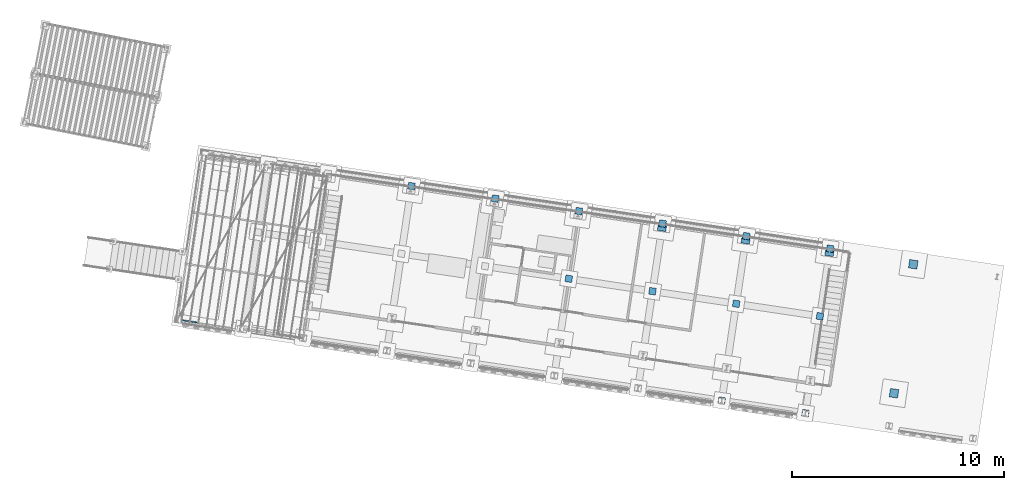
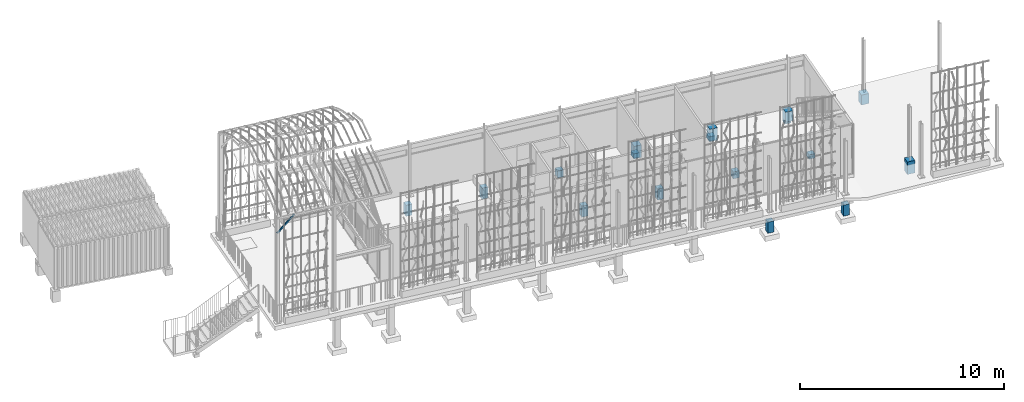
# One storey, part 7 of 142: 17 columns, 1 member, 2 elements without a shape of their own.
"""IFC4 building model written with IfcOpenShell, lengths in metres."""

from ifc_helpers import new_model, si_unit, direction, frame, origin_with_axes, place, context, subcontext, project, spatial, polyline, hollow_rectangle, outline, extrude, material, material_profile, profile_set, profile_usage, type_object, element, aggregate, save


model = new_model("IFC4")

# Units and contexts
model_context = context("Model", 3, precision=1e-05, world=origin_with_axes(), true_north=direction((0.0, 1.0)))
body_context = subcontext(model_context, "Body", "Model", "MODEL_VIEW")
ifc_project = project(units=[si_unit("LENGTHUNIT", "METRE"), si_unit("AREAUNIT", "SQUARE_METRE"), si_unit("VOLUMEUNIT", "CUBIC_METRE")], contexts=[model_context])

# Site, building, storey
site_placement = place(None, origin_with_axes())
site = spatial("IfcSite", under=ifc_project, at=site_placement, Name="Lares · Rua das Mercês · artigo 4771")
building_placement = place(site_placement, frame((15.0, 9.7, 14.65), z_axis=(0.0, 0.0, 1.0), x_axis=(0.989015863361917, -0.147809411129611, 0.0)))
building = spatial("IfcBuilding", under=site, at=building_placement, Name="Casa Sobreposta")
storey_placement = place(building_placement, origin_with_axes())
storey = spatial("IfcBuildingStorey", under=building, at=storey_placement, Name="00 · Habitação e estacionamento", Elevation=14.65)

# Columns
ifc_material_1 = material(Name="Betão armado / Stahlbeton", Category="concrete")
column_1_placement = place(storey_placement, frame((0.0, 0.0, -0.75), z_axis=(0.0, 0.0, 1.0), x_axis=(1.0, 0.0, 0.0)))
element("IfcColumn", 1, at=column_1_placement, inside=storey, material=ifc_material_1, Name="Pedestal 5B · betão 400 x 400", context=body_context, shape_type="SweptSolid", body=[
    extrude(outline(polyline([(16.2, 6.08), (16.2, 6.48), (15.8, 6.48), (15.8, 6.08), (16.2, 6.08)])), origin_with_axes(), (0.0, 0.0, 1.0), 0.75),
])
column_2_placement = place(storey_placement, frame((0.0, 0.0, -0.75), z_axis=(0.0, 0.0, 1.0), x_axis=(1.0, 0.0, 0.0)))
element("IfcColumn", 2, at=column_2_placement, inside=storey, material=ifc_material_1, Name="Pedestal 6B · betão 400 x 400", context=body_context, shape_type="SweptSolid", body=[
    extrude(outline(polyline([(20.2, 6.08), (20.2, 6.48), (19.8, 6.48), (19.8, 6.08), (20.2, 6.08)])), origin_with_axes(), (0.0, 0.0, 1.0), 0.75),
])
column_3_placement = place(storey_placement, frame((0.0, 0.0, -0.6), z_axis=(0.0, 0.0, 1.0), x_axis=(1.0, 0.0, 0.0)))
element("IfcColumn", 3, at=column_3_placement, inside=storey, material=ifc_material_1, Name="Pedestal 7B · betão 400 x 400", context=body_context, shape_type="SweptSolid", body=[
    extrude(outline(polyline([(24.2, 6.08), (24.2, 6.48), (23.8, 6.48), (23.8, 6.08), (24.2, 6.08)])), origin_with_axes(), (0.0, 0.0, 1.0), 0.6),
])
column_4_placement = place(storey_placement, frame((0.0, 0.0, -0.75), z_axis=(0.0, 0.0, 1.0), x_axis=(1.0, 0.0, 0.0)))
element("IfcColumn", 4, at=column_4_placement, inside=storey, material=ifc_material_1, Name="Pedestal 8A · betão 400 x 400", context=body_context, shape_type="SweptSolid", body=[
    extrude(outline(polyline([(28.2, -0.08), (28.2, 0.32), (27.8, 0.32), (27.8, -0.08), (28.2, -0.08)])), origin_with_axes(), (0.0, 0.0, 1.0), 0.75),
])
column_5_placement = place(storey_placement, frame((0.0, 0.0, -0.6), z_axis=(0.0, 0.0, 1.0), x_axis=(1.0, 0.0, 0.0)))
element("IfcColumn", 5, at=column_5_placement, inside=storey, material=ifc_material_1, Name="Pedestal 8B · betão 400 x 400", context=body_context, shape_type="SweptSolid", body=[
    extrude(outline(polyline([(28.2, 6.08), (28.2, 6.48), (27.8, 6.48), (27.8, 6.08), (28.2, 6.08)])), origin_with_axes(), (0.0, 0.0, 1.0), 0.6),
])

# Assembly, columns
assembly_1_placement = place(storey_placement, origin_with_axes())
assembly_1 = element("IfcElementAssembly", 6, at=assembly_1_placement, inside=storey, Name="Pódio · terraço, casa térrea e cisterna", ObjectType="CISTERN_PODIUM", PredefinedType="USERDEFINED")
column_6_placement = place(assembly_1_placement, frame((0.0, 0.0, -1.25), z_axis=(0.0, 0.0, 1.0), x_axis=(1.0, 0.0, 0.0)))
column_6 = element("IfcColumn", 7, at=column_6_placement, material=ifc_material_1, Name="Pódio suspenso · apoio sobre o terreno", context=body_context, shape_type="SweptSolid", body=[
    extrude(outline(polyline([(4.16, 6.27), (4.16, 6.59), (3.84, 6.59), (3.84, 6.27), (4.16, 6.27)])), origin_with_axes(), (0.0, 0.0, 1.0), 0.66),
])
column_7_placement = place(assembly_1_placement, frame((0.0, 0.0, -1.25), z_axis=(0.0, 0.0, 1.0), x_axis=(1.0, 0.0, 0.0)))
column_7 = element("IfcColumn", 8, at=column_7_placement, material=ifc_material_1, Name="Pódio suspenso · apoio sobre o terreno", context=body_context, shape_type="SweptSolid", body=[
    extrude(outline(polyline([(8.16, 6.27), (8.16, 6.59), (7.84, 6.59), (7.84, 6.27), (8.16, 6.27)])), origin_with_axes(), (0.0, 0.0, 1.0), 0.66),
])
column_8_placement = place(assembly_1_placement, frame((0.0, 0.0, -1.25), z_axis=(0.0, 0.0, 1.0), x_axis=(1.0, 0.0, 0.0)))
column_8 = element("IfcColumn", 9, at=column_8_placement, material=ifc_material_1, Name="Pódio suspenso · apoio sobre o terreno", context=body_context, shape_type="SweptSolid", body=[
    extrude(outline(polyline([(12.16, 3.04), (12.16, 3.36), (11.84, 3.36), (11.84, 3.04), (12.16, 3.04)])), origin_with_axes(), (0.0, 0.0, 1.0), 0.66),
])
column_9_placement = place(assembly_1_placement, frame((0.0, 0.0, -1.0), z_axis=(0.0, 0.0, 1.0), x_axis=(1.0, 0.0, 0.0)))
column_9 = element("IfcColumn", 10, at=column_9_placement, material=ifc_material_1, Name="Pódio suspenso · apoio sobre o terreno", context=body_context, shape_type="SweptSolid", body=[
    extrude(outline(polyline([(12.16, 6.27), (12.16, 6.59), (11.84, 6.59), (11.84, 6.27), (12.16, 6.27)])), origin_with_axes(), (0.0, 0.0, 1.0), 0.41),
])
column_10_placement = place(assembly_1_placement, frame((0.0, 0.0, -1.25), z_axis=(0.0, 0.0, 1.0), x_axis=(1.0, 0.0, 0.0)))
column_10 = element("IfcColumn", 11, at=column_10_placement, material=ifc_material_1, Name="Pódio suspenso · apoio sobre o terreno", context=body_context, shape_type="SweptSolid", body=[
    extrude(outline(polyline([(16.16, 3.04), (16.16, 3.36), (15.84, 3.36), (15.84, 3.04), (16.16, 3.04)])), origin_with_axes(), (0.0, 0.0, 1.0), 0.66),
])
column_11_placement = place(assembly_1_placement, frame((0.0, 0.0, -0.85), z_axis=(0.0, 0.0, 1.0), x_axis=(1.0, 0.0, 0.0)))
column_11 = element("IfcColumn", 12, at=column_11_placement, material=ifc_material_1, Name="Pódio suspenso · apoio sobre o terreno", context=body_context, shape_type="SweptSolid", body=[
    extrude(outline(polyline([(16.16, 6.27), (16.16, 6.59), (15.84, 6.59), (15.84, 6.27), (16.16, 6.27)])), origin_with_axes(), (0.0, 0.0, 1.0), 0.26),
])
column_12_placement = place(assembly_1_placement, frame((0.0, 0.0, -1.25), z_axis=(0.0, 0.0, 1.0), x_axis=(1.0, 0.0, 0.0)))
column_12 = element("IfcColumn", 13, at=column_12_placement, material=ifc_material_1, Name="Pódio suspenso · apoio sobre o terreno", context=body_context, shape_type="SweptSolid", body=[
    extrude(outline(polyline([(20.16, -1.59), (20.16, -1.27), (19.84, -1.27), (19.84, -1.59), (20.16, -1.59)])), origin_with_axes(), (0.0, 0.0, 1.0), 0.66),
])
column_13_placement = place(assembly_1_placement, frame((0.0, 0.0, -1.0), z_axis=(0.0, 0.0, 1.0), x_axis=(1.0, 0.0, 0.0)))
column_13 = element("IfcColumn", 14, at=column_13_placement, material=ifc_material_1, Name="Pódio suspenso · apoio sobre o terreno", context=body_context, shape_type="SweptSolid", body=[
    extrude(outline(polyline([(20.16, 3.04), (20.16, 3.36), (19.84, 3.36), (19.84, 3.04), (20.16, 3.04)])), origin_with_axes(), (0.0, 0.0, 1.0), 0.41),
])
column_14_placement = place(assembly_1_placement, frame((0.0, 0.0, -0.85), z_axis=(0.0, 0.0, 1.0), x_axis=(1.0, 0.0, 0.0)))
column_14 = element("IfcColumn", 15, at=column_14_placement, material=ifc_material_1, Name="Pódio suspenso · apoio sobre o terreno", context=body_context, shape_type="SweptSolid", body=[
    extrude(outline(polyline([(20.16, 6.27), (20.16, 6.59), (19.84, 6.59), (19.84, 6.27), (20.16, 6.27)])), origin_with_axes(), (0.0, 0.0, 1.0), 0.26),
])
column_15_placement = place(assembly_1_placement, frame((0.0, 0.0, -1.25), z_axis=(0.0, 0.0, 1.0), x_axis=(1.0, 0.0, 0.0)))
column_15 = element("IfcColumn", 16, at=column_15_placement, material=ifc_material_1, Name="Pódio suspenso · apoio sobre o terreno", context=body_context, shape_type="SweptSolid", body=[
    extrude(outline(polyline([(24.16, -1.59), (24.16, -1.27), (23.84, -1.27), (23.84, -1.59), (24.16, -1.59)])), origin_with_axes(), (0.0, 0.0, 1.0), 0.66),
])
column_16_placement = place(assembly_1_placement, frame((0.0, 0.0, -0.85), z_axis=(0.0, 0.0, 1.0), x_axis=(1.0, 0.0, 0.0)))
column_16 = element("IfcColumn", 17, at=column_16_placement, material=ifc_material_1, Name="Pódio suspenso · apoio sobre o terreno", context=body_context, shape_type="SweptSolid", body=[
    extrude(outline(polyline([(24.16, 3.04), (24.16, 3.36), (23.84, 3.36), (23.84, 3.04), (24.16, 3.04)])), origin_with_axes(), (0.0, 0.0, 1.0), 0.26),
])
column_17_placement = place(assembly_1_placement, frame((0.0, 0.0, -0.85), z_axis=(0.0, 0.0, 1.0), x_axis=(1.0, 0.0, 0.0)))
column_17 = element("IfcColumn", 18, at=column_17_placement, material=ifc_material_1, Name="Pódio suspenso · apoio sobre o terreno", context=body_context, shape_type="SweptSolid", body=[
    extrude(outline(polyline([(24.16, 6.27), (24.16, 6.59), (23.84, 6.59), (23.84, 6.27), (24.16, 6.27)])), origin_with_axes(), (0.0, 0.0, 1.0), 0.26),
])
aggregate(assembly_1, [column_6, column_7, column_8, column_9, column_10, column_11, column_12, column_13, column_14, column_15, column_16, column_17])

# Assembly, member
assembly_2_placement = place(storey_placement, origin_with_axes())
assembly_2 = element("IfcElementAssembly", 19, at=assembly_2_placement, inside=storey, Name="Pérgola · prolongamento da estufa 6 m", ObjectType="PERGOLA_GREENHOUSE_EXTENSION", PredefinedType="USERDEFINED")
ifc_material_2 = material(Name="Aço pintado / Stahl lackiert", Category="steel")
ifc_material_profile = material_profile(ifc_material_2, hollow_rectangle(XDim=0.06, YDim=0.08, WallThickness=0.004))
ifc_profile_set = profile_set([ifc_material_profile], Name="RHS80x60x4")
ifc_profile_usage = profile_usage(ifc_profile_set)
member_type = type_object("IfcMemberType", Name="RHS80x60x4 / steel", PredefinedType="NOTDEFINED", material=ifc_profile_set)
member_placement = place(assembly_2_placement, frame((-6.0, -1.44, 5.3), z_axis=(0.699294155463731, 0.0, 0.714834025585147), x_axis=(0.0, -1.0, 0.0)))
member = element("IfcMember", 20, at=member_placement, type_object=member_type, material=ifc_profile_usage, Name="Pérgola · escora alta", context=body_context, shape_type="SweptSolid", body=[
    extrude(hollow_rectangle(XDim=0.06, YDim=0.08, WallThickness=0.004), origin_with_axes(), (0.0, 0.0, 1.0), 1.28701204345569),
])
aggregate(assembly_2, [member])

save(model, "model.ifc")
